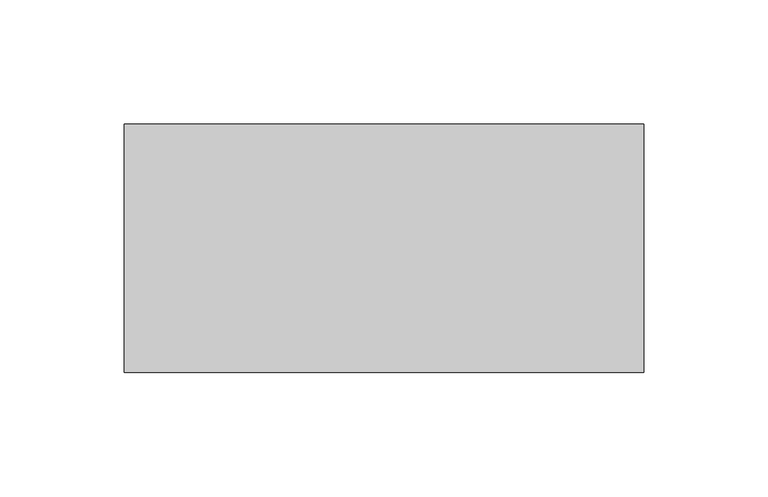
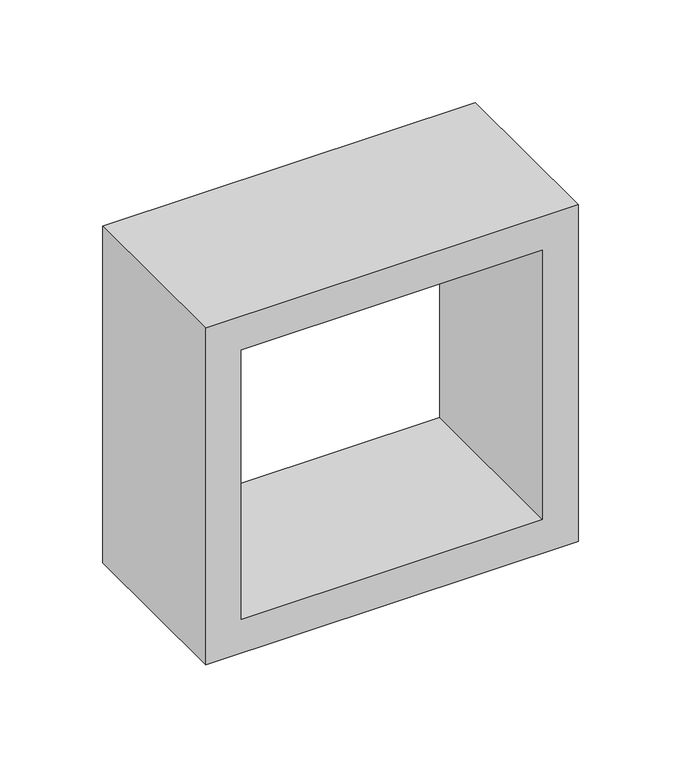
"""IFC4 building model written with IfcOpenShell, lengths in millimetres: plate geometry, pnl - ELEMENTO VAZADO QUADRICULADO : e = 10."""

from ifc_helpers import new_model, si_unit, frame, origin, place, context, project, spatial, polyline, outline, extrude, source, transform, mapped, element, save


def plate_64430686(model_context):
    return source(origin(), model_context, "Body", "SweptSolid", [
        extrude(outline(polyline([(200.0, -104.5454545), (0.0, -104.5454545), (0.0, 104.5454545), (200.0, 104.5454545), (200.0, -104.5454545)]), holes=[polyline([(180.0, -84.5454545), (180.0, 84.5454545), (20.0, 84.5454545), (20.0, -84.5454545), (180.0, -84.5454545)])]), frame((0.0, -50.0, 0.0), z_axis=(0.0, 1.0, 0.0), x_axis=(0.0, 0.0, 1.0)), (0.0, 0.0, 1.0), 100.0),
    ])


if __name__ == "__main__":
    model = new_model("IFC4")
    model_context = context("Model", 3, world=origin())
    ifc_project = project(units=[si_unit("LENGTHUNIT", "METRE", prefix="MILLI")], contexts=[model_context])
    site = spatial("IfcSite", under=ifc_project)
    building = spatial("IfcBuilding", under=site)
    placement = place(None, origin())
    plate_shape = plate_64430686(model_context)
    element("IfcPlate", 1, ObjectType="pnl - ELEMENTO VAZADO QUADRICULADO : e = 10", at=placement, inside=building, context=model_context, shape_type="MappedRepresentation", body=[
        mapped(plate_shape, transform((0.0, 0.0, 0.0), x_axis=(1.0, 0.0, 0.0), y_axis=(0.0, 1.0, 0.0), z_axis=(0.0, 0.0, 1.0))),
    ])
    save(model, "model.ifc")
